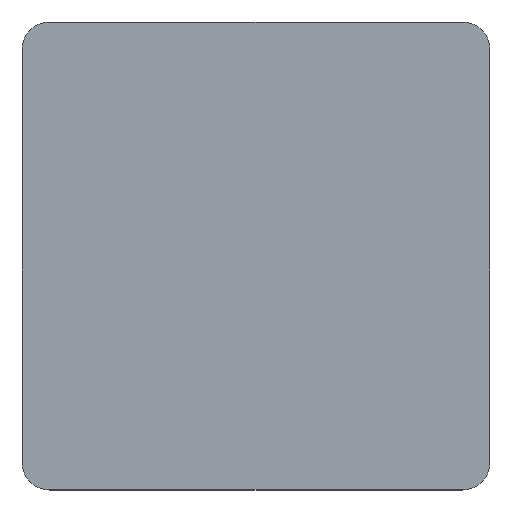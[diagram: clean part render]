
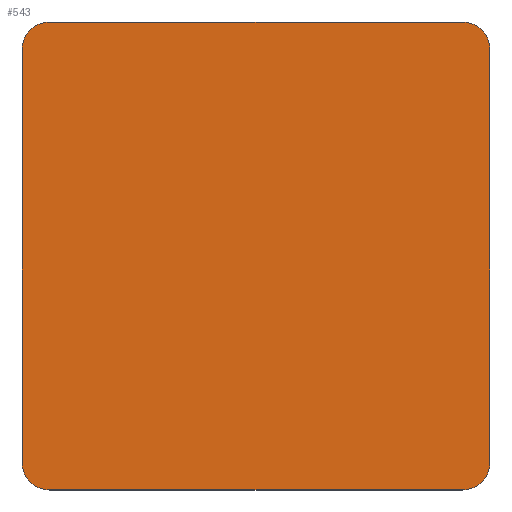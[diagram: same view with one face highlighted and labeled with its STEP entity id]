
A CAD part, top view. The second image highlights one B-rep face of the part: STEP entity #543.
In plain terms, the highlighted planar face has unit normal (0, 0, 1).
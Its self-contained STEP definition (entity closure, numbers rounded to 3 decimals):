
#270=CIRCLE('',#524,4.);
#271=CIRCLE('',#525,4.);
#272=CIRCLE('',#526,4.);
#273=CIRCLE('',#527,4.);
#290=ORIENTED_EDGE('',*,*,#384,.F.);
#291=ORIENTED_EDGE('',*,*,#385,.T.);
#292=ORIENTED_EDGE('',*,*,#372,.F.);
#293=ORIENTED_EDGE('',*,*,#386,.T.);
#294=ORIENTED_EDGE('',*,*,#387,.T.);
#295=ORIENTED_EDGE('',*,*,#388,.T.);
#296=ORIENTED_EDGE('',*,*,#381,.T.);
#297=ORIENTED_EDGE('',*,*,#389,.T.);
#324=VECTOR('',#418,1.);
#329=VECTOR('',#435,1.);
#332=VECTOR('',#440,1.);
#333=VECTOR('',#445,1.);
#340=LINE('',#473,#324);
#345=LINE('',#492,#329);
#348=LINE('',#498,#332);
#349=LINE('',#503,#333);
#356=VERTEX_POINT('',#470);
#357=VERTEX_POINT('',#472);
#364=VERTEX_POINT('',#490);
#365=VERTEX_POINT('',#491);
#366=VERTEX_POINT('',#496);
#367=VERTEX_POINT('',#497);
#368=VERTEX_POINT('',#500);
#369=VERTEX_POINT('',#502);
#372=EDGE_CURVE('',#356,#357,#340,.T.);
#381=EDGE_CURVE('',#364,#365,#345,.T.);
#384=EDGE_CURVE('',#366,#367,#348,.T.);
#385=EDGE_CURVE('',#366,#357,#270,.T.);
#386=EDGE_CURVE('',#356,#368,#271,.T.);
#387=EDGE_CURVE('',#368,#369,#349,.T.);
#388=EDGE_CURVE('',#369,#364,#272,.T.);
#389=EDGE_CURVE('',#365,#367,#273,.T.);
#397=EDGE_LOOP('',(#290,#291,#292,#293,#294,#295,#296,#297));
#407=FACE_BOUND('',#397,.T.);
#418=DIRECTION('',(-60.,0.,0.));
#435=DIRECTION('',(-60.,0.,0.));
#438=DIRECTION('',(0.,0.,1.));
#439=DIRECTION('',(0.,-1.,0.));
#440=DIRECTION('',(0.,60.,0.));
#441=DIRECTION('',(0.,0.,1.));
#442=DIRECTION('',(0.,-4.,0.));
#443=DIRECTION('',(0.,0.,1.));
#444=DIRECTION('',(0.,-4.,0.));
#445=DIRECTION('',(0.,60.,0.));
#446=DIRECTION('',(0.,0.,1.));
#447=DIRECTION('',(0.,-4.,0.));
#448=DIRECTION('',(0.,0.,1.));
#449=DIRECTION('',(0.,-4.,0.));
#470=CARTESIAN_POINT('',(64.,-34.,2.5));
#472=CARTESIAN_POINT('',(4.,-34.,2.5));
#473=CARTESIAN_POINT('',(64.,-34.,2.5));
#490=CARTESIAN_POINT('',(64.,34.,2.5));
#491=CARTESIAN_POINT('',(4.,34.,2.5));
#492=CARTESIAN_POINT('',(64.,34.,2.5));
#495=CARTESIAN_POINT('',(68.,34.,2.5));
#496=CARTESIAN_POINT('',(0.,-30.,2.5));
#497=CARTESIAN_POINT('',(0.,30.,2.5));
#498=CARTESIAN_POINT('',(0.,-30.,2.5));
#499=CARTESIAN_POINT('',(4.,-30.,2.5));
#500=CARTESIAN_POINT('',(68.,-30.,2.5));
#501=CARTESIAN_POINT('',(64.,-30.,2.5));
#502=CARTESIAN_POINT('',(68.,30.,2.5));
#503=CARTESIAN_POINT('',(68.,-30.,2.5));
#504=CARTESIAN_POINT('',(64.,30.,2.5));
#505=CARTESIAN_POINT('',(4.,30.,2.5));
#523=AXIS2_PLACEMENT_3D('',#495,#438,#439);
#524=AXIS2_PLACEMENT_3D('',#499,#441,#442);
#525=AXIS2_PLACEMENT_3D('',#501,#443,#444);
#526=AXIS2_PLACEMENT_3D('',#504,#446,#447);
#527=AXIS2_PLACEMENT_3D('',#505,#448,#449);
#537=PLANE('',#523);
#543=ADVANCED_FACE('',(#407),#537,.T.);
